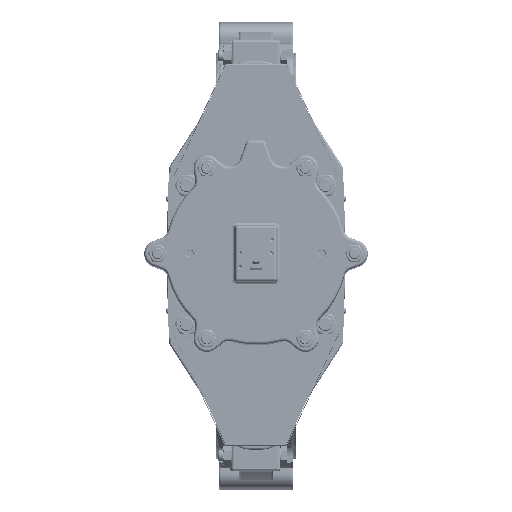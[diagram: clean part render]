
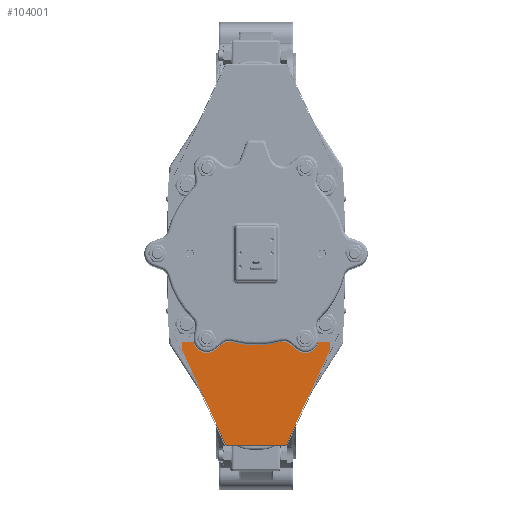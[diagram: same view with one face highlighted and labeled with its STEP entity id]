
A CAD part, top view. The second image highlights one B-rep face of the part: STEP entity #104001.
In plain terms, the highlighted planar face has unit normal (0, 0, 1).
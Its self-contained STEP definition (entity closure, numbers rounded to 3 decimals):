
#11727=LINE('',#198428,#18808);
#11730=LINE('',#198434,#18811);
#11735=LINE('',#198445,#18816);
#11737=LINE('',#198449,#18818);
#11739=LINE('',#198453,#18820);
#11741=LINE('',#198456,#18822);
#18808=VECTOR('',#143686,10.);
#18811=VECTOR('',#143691,10.);
#18816=VECTOR('',#143700,10.);
#18818=VECTOR('',#143704,10.);
#18820=VECTOR('',#143708,10.);
#18822=VECTOR('',#143712,10.);
#27254=FACE_OUTER_BOUND('',#34181,.T.);
#34181=EDGE_LOOP('',(#95408,#95409,#95410,#95411,#95412,#95413));
#49463=VERTEX_POINT('',#198376);
#49465=VERTEX_POINT('',#198415);
#49468=VERTEX_POINT('',#198432);
#49472=VERTEX_POINT('',#198444);
#49473=VERTEX_POINT('',#198448);
#49474=VERTEX_POINT('',#198452);
#64773=EDGE_CURVE('',#49465,#49463,#11727,.T.);
#64776=EDGE_CURVE('',#49468,#49463,#11730,.T.);
#64781=EDGE_CURVE('',#49465,#49472,#11735,.T.);
#64783=EDGE_CURVE('',#49472,#49473,#11737,.T.);
#64785=EDGE_CURVE('',#49473,#49474,#11739,.T.);
#64787=EDGE_CURVE('',#49474,#49468,#11741,.T.);
#95408=ORIENTED_EDGE('',*,*,#64773,.T.);
#95409=ORIENTED_EDGE('',*,*,#64776,.F.);
#95410=ORIENTED_EDGE('',*,*,#64787,.F.);
#95411=ORIENTED_EDGE('',*,*,#64785,.F.);
#95412=ORIENTED_EDGE('',*,*,#64783,.F.);
#95413=ORIENTED_EDGE('',*,*,#64781,.F.);
#98054=PLANE('',#114891);
#104001=ADVANCED_FACE('',(#27254),#98054,.T.);
#114891=AXIS2_PLACEMENT_3D('',#198457,#143713,#143714);
#143686=DIRECTION('',(1.,0.,0.));
#143691=DIRECTION('',(-0.419,-0.908,0.));
#143700=DIRECTION('',(-0.419,0.908,0.));
#143704=DIRECTION('',(0.,1.,0.));
#143708=DIRECTION('',(1.,0.,0.));
#143712=DIRECTION('',(0.,-1.,0.));
#143713=DIRECTION('center_axis',(0.,0.,
1.));
#143714=DIRECTION('ref_axis',(1.,0.,0.));
#198376=CARTESIAN_POINT('',(43.523,-273.789,1113.25));
#198415=CARTESIAN_POINT('',(-43.523,-273.789,1113.25));
#198428=CARTESIAN_POINT('',(-21.762,-273.789,1113.25));
#198432=CARTESIAN_POINT('',(106.041,-138.489,1113.25));
#198434=CARTESIAN_POINT('',(43.2,-274.489,1113.25));
#198444=CARTESIAN_POINT('',(-106.041,-138.489,1113.25));
#198445=CARTESIAN_POINT('',(-106.041,-138.489,1113.25));
#198448=CARTESIAN_POINT('',(-106.041,-126.489,1113.25));
#198449=CARTESIAN_POINT('',(-106.041,-126.489,1113.25));
#198452=CARTESIAN_POINT('',(106.041,-126.489,1113.25));
#198453=CARTESIAN_POINT('',(106.041,-126.489,1113.25));
#198456=CARTESIAN_POINT('',(106.041,-138.489,1113.25));
#198457=CARTESIAN_POINT('Origin',(0.,-185.806,
1113.25));
